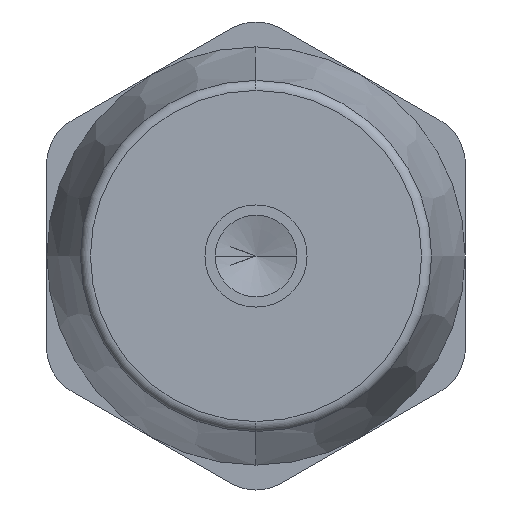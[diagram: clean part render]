
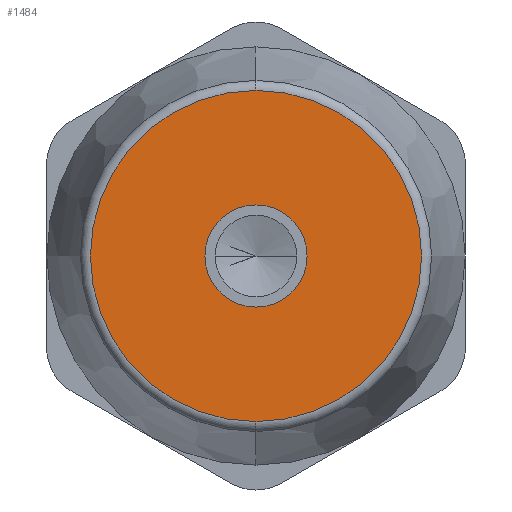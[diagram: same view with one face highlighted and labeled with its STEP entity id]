
A CAD part, front view. The second image highlights one B-rep face of the part: STEP entity #1484.
In plain terms, the highlighted planar face has unit normal (0, -1, 0).
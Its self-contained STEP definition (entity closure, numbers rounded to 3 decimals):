
#122 = DIRECTION ( 'NONE',  ( 0., 1., 0. ) ) ;
#128 = VERTEX_POINT ( 'NONE', #555 ) ;
#209 = ORIENTED_EDGE ( 'NONE', *, *, #1691, .T. ) ;
#288 = CARTESIAN_POINT ( 'NONE',  ( 0., 0., 0. ) ) ;
#431 = CIRCLE ( 'NONE', #1325, 16.205 ) ;
#441 = DIRECTION ( 'NONE',  ( 0., -1., 0. ) ) ;
#473 = CARTESIAN_POINT ( 'NONE',  ( 0., 0., 0. ) ) ;
#555 = CARTESIAN_POINT ( 'NONE',  ( 0., 0., 16.205 ) ) ;
#577 = FACE_OUTER_BOUND ( 'NONE', #2047, .T. ) ;
#600 = DIRECTION ( 'NONE',  ( 0., 1., 0. ) ) ;
#653 = AXIS2_PLACEMENT_3D ( 'NONE', #1662, #1012, #856 ) ;
#768 = EDGE_CURVE ( 'NONE', #1667, #128, #431, .T. ) ;
#806 = ORIENTED_EDGE ( 'NONE', *, *, #768, .T. ) ;
#834 = AXIS2_PLACEMENT_3D ( 'NONE', #1910, #441, #1416 ) ;
#856 = DIRECTION ( 'NONE',  ( 0., 0., 1. ) ) ;
#874 = PLANE ( 'NONE',  #653 ) ;
#944 = CARTESIAN_POINT ( 'NONE',  ( 5., 0., 0. ) ) ;
#1003 = EDGE_LOOP ( 'NONE', ( #209, #1753 ) ) ;
#1012 = DIRECTION ( 'NONE',  ( 0., 1., 0. ) ) ;
#1033 = CIRCLE ( 'NONE', #1597, 5. ) ;
#1070 = CARTESIAN_POINT ( 'NONE',  ( 0., 0., 0. ) ) ;
#1116 = VERTEX_POINT ( 'NONE', #1822 ) ;
#1195 = EDGE_CURVE ( 'NONE', #2080, #1116, #1033, .T. ) ;
#1225 = EDGE_CURVE ( 'NONE', #128, #1667, #1631, .T. ) ;
#1256 = CARTESIAN_POINT ( 'NONE',  ( 0., 0., -16.205 ) ) ;
#1258 = DIRECTION ( 'NONE',  ( -1., 0., 0. ) ) ;
#1325 = AXIS2_PLACEMENT_3D ( 'NONE', #473, #1749, #1449 ) ;
#1393 = DIRECTION ( 'NONE',  ( -1., 0., 0. ) ) ;
#1416 = DIRECTION ( 'NONE',  ( 0., 0., 1. ) ) ;
#1449 = DIRECTION ( 'NONE',  ( 0., 0., 1. ) ) ;
#1484 = ADVANCED_FACE ( 'NONE', ( #1649, #577 ), #874, .F. ) ;
#1555 = ORIENTED_EDGE ( 'NONE', *, *, #1225, .T. ) ;
#1587 = AXIS2_PLACEMENT_3D ( 'NONE', #1070, #122, #1393 ) ;
#1597 = AXIS2_PLACEMENT_3D ( 'NONE', #288, #600, #1258 ) ;
#1631 = CIRCLE ( 'NONE', #834, 16.205 ) ;
#1649 = FACE_BOUND ( 'NONE', #1003, .T. ) ;
#1662 = CARTESIAN_POINT ( 'NONE',  ( 20.5, 0., -11.836 ) ) ;
#1667 = VERTEX_POINT ( 'NONE', #1256 ) ;
#1691 = EDGE_CURVE ( 'NONE', #1116, #2080, #1790, .T. ) ;
#1749 = DIRECTION ( 'NONE',  ( 0., -1., 0. ) ) ;
#1753 = ORIENTED_EDGE ( 'NONE', *, *, #1195, .T. ) ;
#1790 = CIRCLE ( 'NONE', #1587, 5. ) ;
#1822 = CARTESIAN_POINT ( 'NONE',  ( -5., 0., 0. ) ) ;
#1910 = CARTESIAN_POINT ( 'NONE',  ( 0., 0., 0. ) ) ;
#2047 = EDGE_LOOP ( 'NONE', ( #1555, #806 ) ) ;
#2080 = VERTEX_POINT ( 'NONE', #944 ) ;
